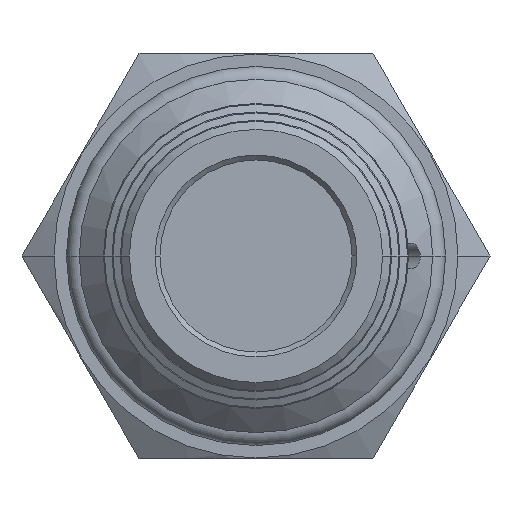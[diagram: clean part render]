
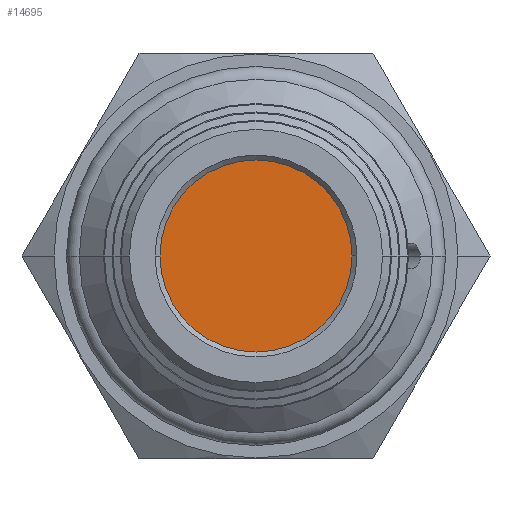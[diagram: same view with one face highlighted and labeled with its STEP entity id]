
A CAD part, front view. The second image highlights one B-rep face of the part: STEP entity #14695.
In plain terms, the highlighted planar face has unit normal (0, -1, 0).
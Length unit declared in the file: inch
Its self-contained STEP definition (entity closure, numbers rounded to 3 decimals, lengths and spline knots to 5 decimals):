
#10245=CARTESIAN_POINT('',(0.,-4.02174,0.));
#10246=DIRECTION('',(0.,-1.,0.));
#10247=DIRECTION('',(1.,0.,0.));
#10248=AXIS2_PLACEMENT_3D('',#10245,#10246,#10247);
#10260=CARTESIAN_POINT('',(0.,-4.02174,0.));
#10261=DIRECTION('',(0.,-1.,0.));
#10262=DIRECTION('',(-1.,0.,0.));
#10263=AXIS2_PLACEMENT_3D('',#10260,#10261,#10262);
#10621=CARTESIAN_POINT('',(-0.35539,-4.02174,
0.));
#10622=CARTESIAN_POINT('',(0.35539,-4.02174,
0.));
#10623=VERTEX_POINT('',#10621);
#10624=VERTEX_POINT('',#10622);
#14685=CARTESIAN_POINT('',(0.,-4.02174,0.));
#14686=DIRECTION('',(0.,-1.,0.));
#14687=DIRECTION('',(-1.,0.,0.));
#14688=AXIS2_PLACEMENT_3D('',#14685,#14686,#14687);
#14689=PLANE('',#14688);
#14691=ORIENTED_EDGE('',*,*,#14690,.F.);
#14692=ORIENTED_EDGE('',*,*,#14668,.F.);
#14693=EDGE_LOOP('',(#14691,#14692));
#14694=FACE_OUTER_BOUND('',#14693,.F.);
#10249=CIRCLE('',#10248,0.35539);
#10264=CIRCLE('',#10263,0.35539);
#14668=EDGE_CURVE('',#10624,#10623,#10249,.T.);
#14690=EDGE_CURVE('',#10623,#10624,#10264,.T.);
#14695=ADVANCED_FACE('',(#14694),#14689,.T.);
